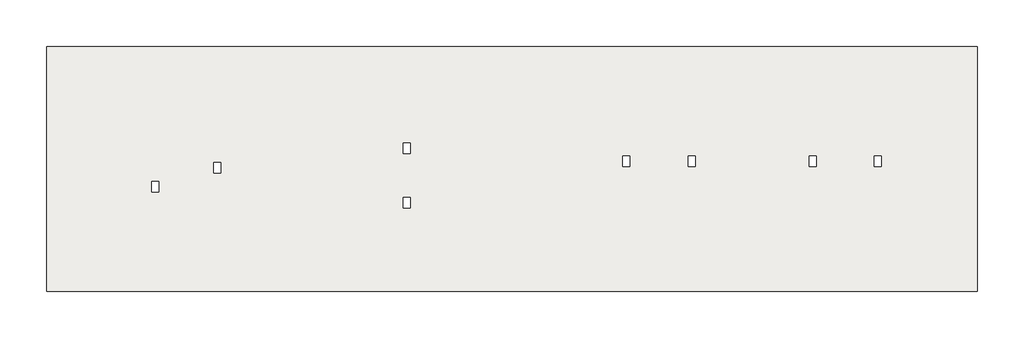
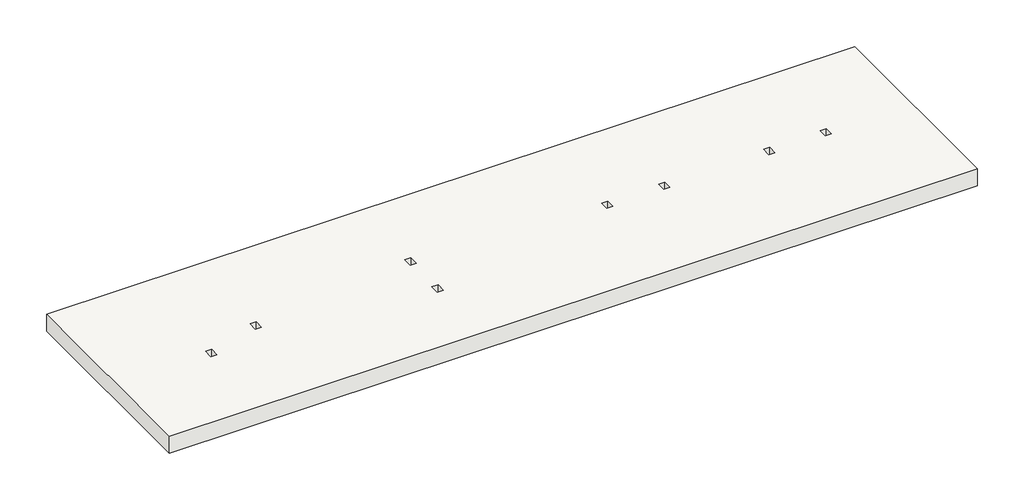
# One storey: 1 slab.
"""IFC4 building model written with IfcOpenShell, lengths in millimetres."""

from ifc_helpers import new_model, si_unit, frame, origin, place, context, project, spatial, polyline, outline, extrude, element, save

model = new_model("IFC4")

# Units and contexts
model_context = context("Model", 3, world=origin())
ifc_project = project(units=[si_unit("LENGTHUNIT", "METRE", prefix="MILLI")], contexts=[model_context])

# Site, building, storey
site = spatial("IfcSite", under=ifc_project)
building = spatial("IfcBuilding", under=site)
storey = spatial("IfcBuildingStorey", under=building, Name="Уровень 6", Elevation=20000.0)

# Slab
placement = place(None, origin())
element("IfcSlab", 1, ObjectType="Типовой 300мм", at=placement, inside=storey, context=model_context, shape_type="SweptSolid", body=[
    extrude(outline(polyline([(7382.7342351, -947.4955564), (7382.7342351, -4447.4955564), (-5917.2657649, -4447.4955564), (-5917.2657649, -947.4955564), (7382.7342351, -947.4955564)]), holes=[polyline([(2312.9856165, -2662.209494), (2412.9856165, -2662.209494), (2412.9856165, -2512.209494), (2312.9856165, -2512.209494), (2312.9856165, -2662.209494)]), polyline([(3352.9856165, -2512.209494), (3252.9856165, -2512.209494), (3252.9856165, -2662.209494), (3352.9856165, -2662.209494), (3352.9856165, -2512.209494)]), polyline([(-821.5137369, -3257.209494), (-721.5137369, -3257.209494), (-721.5137369, -3107.209494), (-821.5137369, -3107.209494), (-821.5137369, -3257.209494)]), polyline([(-721.5137369, -2332.209494), (-821.5137369, -2332.209494), (-821.5137369, -2482.209494), (-721.5137369, -2482.209494), (-721.5137369, -2332.209494)]), polyline([(-4417.0143835, -3032.209494), (-4317.0143835, -3032.209494), (-4317.0143835, -2882.209494), (-4417.0143835, -2882.209494), (-4417.0143835, -3032.209494)]), polyline([(-3427.0143835, -2607.209494), (-3527.0143835, -2607.209494), (-3527.0143835, -2757.209494), (-3427.0143835, -2757.209494), (-3427.0143835, -2607.209494)]), polyline([(5909.8086741, -2662.209494), (6009.8086741, -2662.209494), (6009.8086741, -2512.209494), (5909.8086741, -2512.209494), (5909.8086741, -2662.209494)]), polyline([(5079.8086741, -2512.209494), (4979.8086741, -2512.209494), (4979.8086741, -2662.209494), (5079.8086741, -2662.209494), (5079.8086741, -2512.209494)])]), frame((0.0, 0.0, 19700.0), z_axis=(0.0, 0.0, 1.0), x_axis=(1.0, 0.0, 0.0)), (0.0, 0.0, 1.0), 300.0),
])

save(model, "model.ifc")
